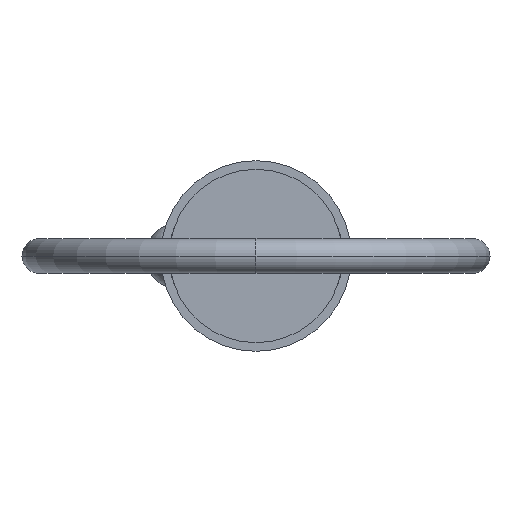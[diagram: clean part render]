
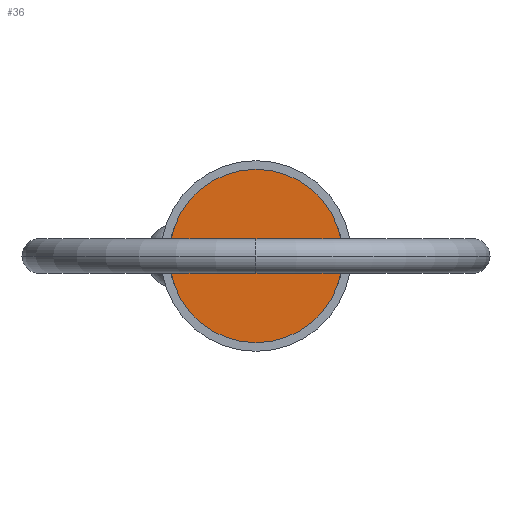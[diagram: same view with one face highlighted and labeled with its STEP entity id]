
A CAD part, left-side view. The second image highlights one B-rep face of the part: STEP entity #36.
In plain terms, the highlighted planar face has unit normal (-1, 0, 0).
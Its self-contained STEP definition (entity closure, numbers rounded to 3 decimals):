
#36 = ADVANCED_FACE ( 'NONE', ( #334 ), #674, .T. ) ;
#63 = CIRCLE ( 'NONE', #1063, 12.7 ) ;
#74 = DIRECTION ( 'NONE',  ( 0., 0., 1. ) ) ;
#110 = DIRECTION ( 'NONE',  ( 1., 0., 0. ) ) ;
#126 = DIRECTION ( 'NONE',  ( 0., 0., -1. ) ) ;
#171 = EDGE_CURVE ( 'NONE', #484, #322, #63, .T. ) ;
#249 = CIRCLE ( 'NONE', #385, 12.7 ) ;
#322 = VERTEX_POINT ( 'NONE', #794 ) ;
#334 = FACE_OUTER_BOUND ( 'NONE', #569, .T. ) ;
#385 = AXIS2_PLACEMENT_3D ( 'NONE', #610, #528, #126 ) ;
#421 = ORIENTED_EDGE ( 'NONE', *, *, #1074, .F. ) ;
#448 = DIRECTION ( 'NONE',  ( 0., 0., -1. ) ) ;
#484 = VERTEX_POINT ( 'NONE', #932 ) ;
#528 = DIRECTION ( 'NONE',  ( 1., 0., 0. ) ) ;
#569 = EDGE_LOOP ( 'NONE', ( #987, #421 ) ) ;
#610 = CARTESIAN_POINT ( 'NONE',  ( 0., 0., 0. ) ) ;
#674 = PLANE ( 'NONE',  #752 ) ;
#752 = AXIS2_PLACEMENT_3D ( 'NONE', #928, #842, #74 ) ;
#794 = CARTESIAN_POINT ( 'NONE',  ( 0., 0., 12.7 ) ) ;
#842 = DIRECTION ( 'NONE',  ( -1., 0., 0. ) ) ;
#928 = CARTESIAN_POINT ( 'NONE',  ( 0., 0., 0. ) ) ;
#932 = CARTESIAN_POINT ( 'NONE',  ( 0., 0., -12.7 ) ) ;
#987 = ORIENTED_EDGE ( 'NONE', *, *, #171, .F. ) ;
#1026 = CARTESIAN_POINT ( 'NONE',  ( 0., 0., 0. ) ) ;
#1063 = AXIS2_PLACEMENT_3D ( 'NONE', #1026, #110, #448 ) ;
#1074 = EDGE_CURVE ( 'NONE', #322, #484, #249, .T. ) ;
